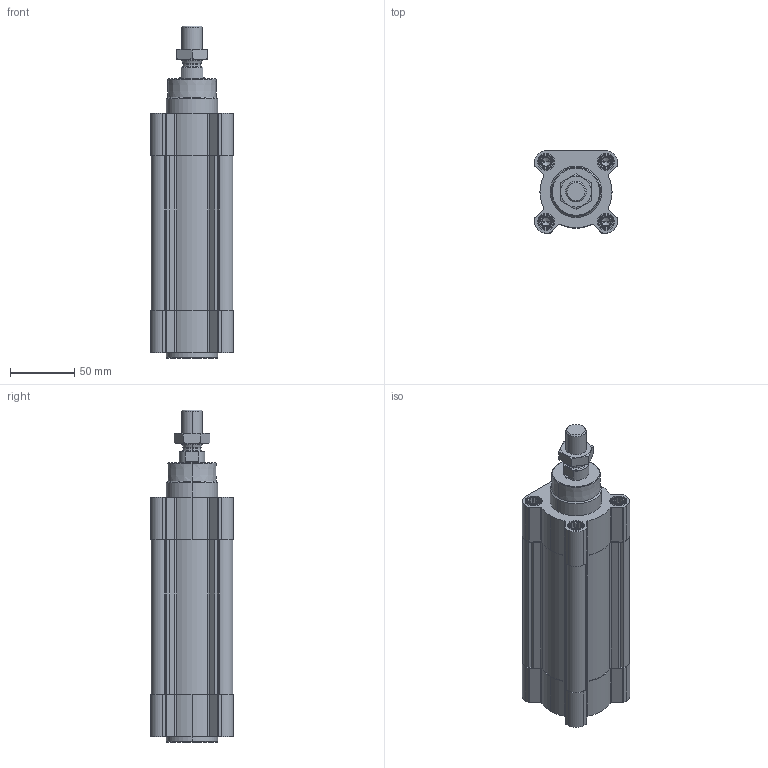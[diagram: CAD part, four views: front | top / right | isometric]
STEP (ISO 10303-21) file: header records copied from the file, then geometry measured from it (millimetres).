
FILE_DESCRIPTION (( 'STEP AP203' ), '1' );
FILE_NAME ('CPME50-80.STEP', '2023-11-22T17:20:50', ( '' ), ( '' ), 'SwSTEP 2.0', 'SolidWorks 2019', '' );
FILE_SCHEMA (( 'CONFIG_CONTROL_DESIGN' ));
Length unit declared in the file: millimetre
Products named in the file (1): CPME50-80
Bounding box: 64 x 64 x 257.8 mm (x, y, z)
Volume: 525736.1 mm3; surface area: 128095.2 mm2
Topology: 3 solids, 3 shells, 639 faces, 1655 edges, 1050 vertices
Faces by surface type: plane 325, cylinder 200, cone 106, torus 8
Entity records: 20033 total; most frequent: CARTESIAN_POINT 4447, ORIENTED_EDGE 3278, DIRECTION 3187, EDGE_CURVE 1639, AXIS2_PLACEMENT_3D 1131, VERTEX_POINT 1050, LINE 925, VECTOR 925
